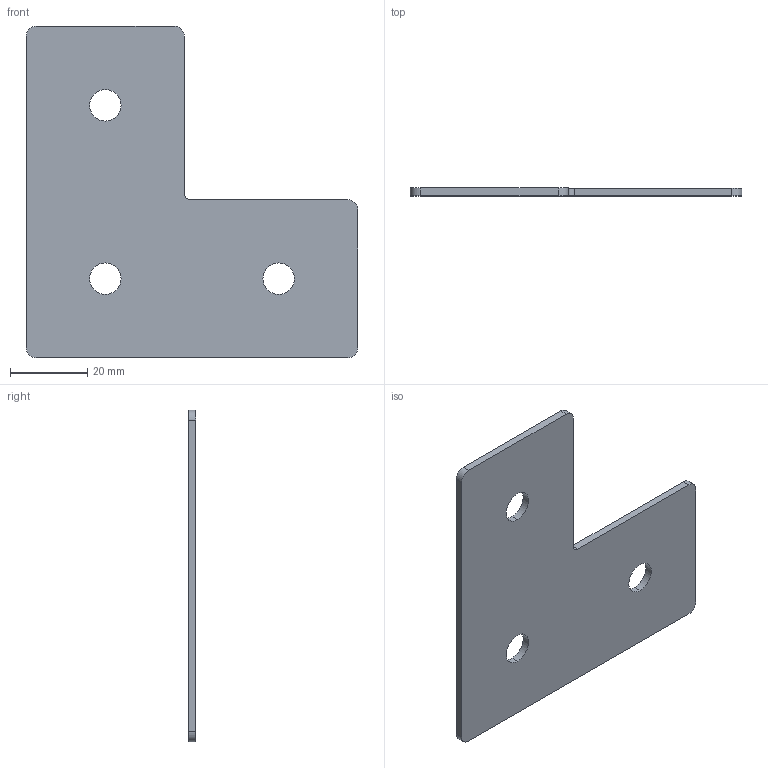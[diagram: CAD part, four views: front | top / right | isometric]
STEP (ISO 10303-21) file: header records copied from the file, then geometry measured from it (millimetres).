
FILE_DESCRIPTION (( 'STEP AP203' ), '1' );
FILE_NAME ('Ã-3-45.STEP', '2016-07-19T10:39:48', ( 'RosInstal-MKM' ), ( '' ), 'SwSTEP 2.0', 'SolidWorks 2014', '' );
FILE_SCHEMA (( 'CONFIG_CONTROL_DESIGN' ));
Length unit declared in the file: millimetre
Products named in the file (1): ﾃ-3-45
Bounding box: 86 x 2 x 86 mm (x, y, z)
Volume: 10411.6 mm3; surface area: 11241.7 mm2
Topology: 1 solids, 1 shells, 20 faces, 54 edges, 36 vertices
Faces by surface type: cylinder 12, plane 8
Entity records: 731 total; most frequent: DIRECTION 120, CARTESIAN_POINT 111, ORIENTED_EDGE 108, EDGE_CURVE 54, AXIS2_PLACEMENT_3D 45, VERTEX_POINT 36, VECTOR 30, LINE 30
